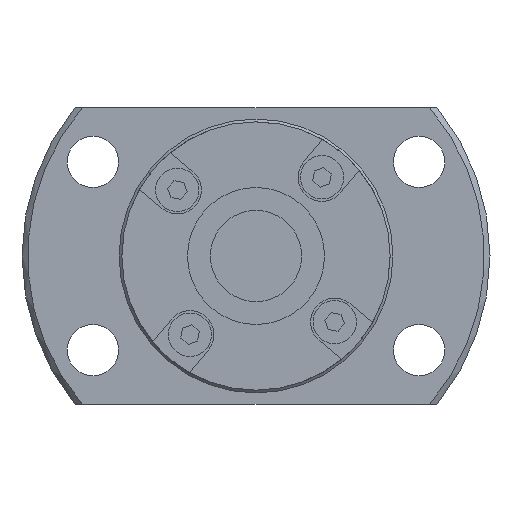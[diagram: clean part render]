
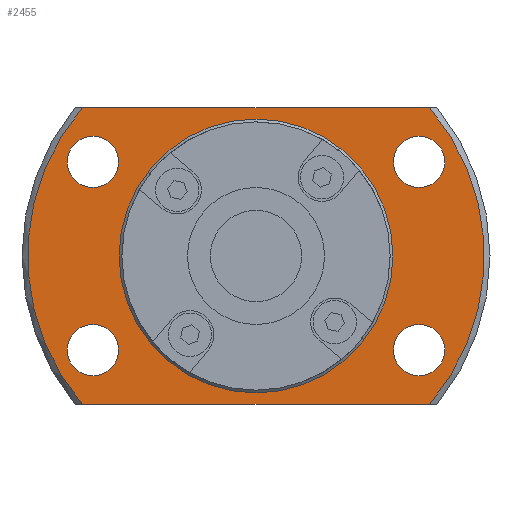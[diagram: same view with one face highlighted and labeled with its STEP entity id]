
A CAD part, left-side view. The second image highlights one B-rep face of the part: STEP entity #2455.
In plain terms, the highlighted planar face has unit normal (-1, 0, 0).
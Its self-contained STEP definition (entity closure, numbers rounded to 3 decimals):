
#111=LINE('',#3797,#337);
#112=LINE('',#3801,#338);
#337=VECTOR('',#3059,1000.);
#338=VECTOR('',#3062,1000.);
#655=ORIENTED_EDGE('',*,*,#1277,.F.);
#656=ORIENTED_EDGE('',*,*,#1278,.F.);
#657=ORIENTED_EDGE('',*,*,#1279,.F.);
#658=ORIENTED_EDGE('',*,*,#1280,.F.);
#659=ORIENTED_EDGE('',*,*,#1233,.F.);
#660=ORIENTED_EDGE('',*,*,#1281,.T.);
#661=ORIENTED_EDGE('',*,*,#1282,.F.);
#662=ORIENTED_EDGE('',*,*,#1283,.T.);
#663=ORIENTED_EDGE('',*,*,#1276,.T.);
#1233=EDGE_CURVE('',#1559,#1560,#1792,.T.);
#1276=EDGE_CURVE('',#1597,#1597,#1814,.T.);
#1277=EDGE_CURVE('',#1598,#1598,#1815,.F.);
#1278=EDGE_CURVE('',#1599,#1599,#1816,.F.);
#1279=EDGE_CURVE('',#1600,#1600,#1817,.F.);
#1280=EDGE_CURVE('',#1601,#1601,#1818,.F.);
#1281=EDGE_CURVE('',#1559,#1602,#111,.T.);
#1282=EDGE_CURVE('',#1603,#1602,#1819,.T.);
#1283=EDGE_CURVE('',#1603,#1560,#112,.T.);
#1559=VERTEX_POINT('',#3687);
#1560=VERTEX_POINT('',#3689);
#1597=VERTEX_POINT('',#3787);
#1598=VERTEX_POINT('',#3790);
#1599=VERTEX_POINT('',#3792);
#1600=VERTEX_POINT('',#3794);
#1601=VERTEX_POINT('',#3796);
#1602=VERTEX_POINT('',#3798);
#1603=VERTEX_POINT('',#3800);
#1792=CIRCLE('',#2651,20.);
#1814=CIRCLE('',#2682,11.75);
#1815=CIRCLE('',#2684,2.25);
#1816=CIRCLE('',#2685,2.25);
#1817=CIRCLE('',#2686,2.25);
#1818=CIRCLE('',#2687,2.25);
#1819=CIRCLE('',#2688,20.);
#1924=EDGE_LOOP('',(#655));
#1925=EDGE_LOOP('',(#656));
#1926=EDGE_LOOP('',(#657));
#1927=EDGE_LOOP('',(#658));
#1928=EDGE_LOOP('',(#659,#660,#661,#662));
#1929=EDGE_LOOP('',(#663));
#2146=FACE_BOUND('',#1924,.T.);
#2147=FACE_BOUND('',#1925,.T.);
#2148=FACE_BOUND('',#1926,.T.);
#2149=FACE_BOUND('',#1927,.T.);
#2150=FACE_BOUND('',#1928,.T.);
#2151=FACE_BOUND('',#1929,.T.);
#2327=PLANE('',#2683);
#2455=ADVANCED_FACE('',(#2146,#2147,#2148,#2149,#2150,#2151),#2327,.F.);
#2651=AXIS2_PLACEMENT_3D('',#3688,#2967,#2968);
#2682=AXIS2_PLACEMENT_3D('',#3786,#3047,#3048);
#2683=AXIS2_PLACEMENT_3D('',#3788,#3049,#3050);
#2684=AXIS2_PLACEMENT_3D('',#3789,#3051,#3052);
#2685=AXIS2_PLACEMENT_3D('',#3791,#3053,#3054);
#2686=AXIS2_PLACEMENT_3D('',#3793,#3055,#3056);
#2687=AXIS2_PLACEMENT_3D('',#3795,#3057,#3058);
#2688=AXIS2_PLACEMENT_3D('',#3799,#3060,#3061);
#2967=DIRECTION('',(1.,0.,0.));
#2968=DIRECTION('',(0.,0.,-1.));
#3047=DIRECTION('',(1.,0.,0.));
#3048=DIRECTION('',(0.,0.,-1.));
#3049=DIRECTION('',(1.,0.,0.));
#3050=DIRECTION('',(0.,0.,-1.));
#3051=DIRECTION('',(1.,0.,0.));
#3052=DIRECTION('',(0.,0.,-1.));
#3053=DIRECTION('',(1.,0.,0.));
#3054=DIRECTION('',(0.,0.,-1.));
#3055=DIRECTION('',(1.,0.,0.));
#3056=DIRECTION('',(0.,0.,-1.));
#3057=DIRECTION('',(1.,0.,0.));
#3058=DIRECTION('',(0.,0.,-1.));
#3059=DIRECTION('',(0.,-1.,0.));
#3060=DIRECTION('',(1.,0.,0.));
#3061=DIRECTION('',(0.,0.,-1.));
#3062=DIRECTION('',(0.,1.,0.));
#3687=CARTESIAN_POINT('',(14.5,15.199,-13.));
#3688=CARTESIAN_POINT('',(14.5,0.,0.));
#3689=CARTESIAN_POINT('',(14.5,15.199,13.));
#3786=CARTESIAN_POINT('',(14.5,0.,0.));
#3787=CARTESIAN_POINT('',(14.5,0.,-11.75));
#3788=CARTESIAN_POINT('',(14.5,11.75,0.));
#3789=CARTESIAN_POINT('',(14.5,-14.289,-8.25));
#3790=CARTESIAN_POINT('',(14.5,-14.289,-10.5));
#3791=CARTESIAN_POINT('',(14.5,-14.289,8.25));
#3792=CARTESIAN_POINT('',(14.5,-14.289,6.));
#3793=CARTESIAN_POINT('',(14.5,14.289,-8.25));
#3794=CARTESIAN_POINT('',(14.5,14.289,-10.5));
#3795=CARTESIAN_POINT('',(14.5,14.289,8.25));
#3796=CARTESIAN_POINT('',(14.5,14.289,6.));
#3797=CARTESIAN_POINT('',(14.5,11.75,-13.));
#3798=CARTESIAN_POINT('',(14.5,-15.199,-13.));
#3799=CARTESIAN_POINT('',(14.5,0.,0.));
#3800=CARTESIAN_POINT('',(14.5,-15.199,13.));
#3801=CARTESIAN_POINT('',(14.5,11.75,13.));
